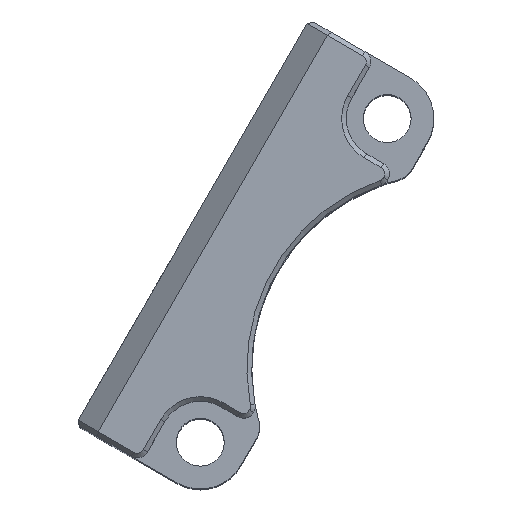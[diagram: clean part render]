
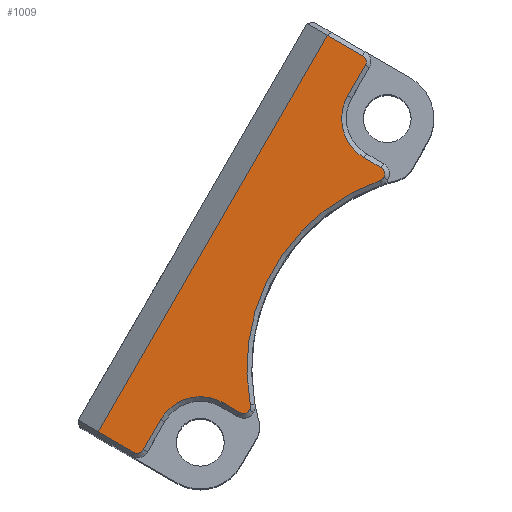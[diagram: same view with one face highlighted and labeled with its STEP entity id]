
A CAD part, top view. The second image highlights one B-rep face of the part: STEP entity #1009.
In plain terms, the highlighted planar face has unit normal (0, 0, 1).
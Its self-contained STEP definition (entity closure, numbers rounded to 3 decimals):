
#38 = CARTESIAN_POINT ( 'NONE',  ( 8., -0.05, 14.3 ) ) ;
#74 = DIRECTION ( 'NONE',  ( 0., 0., -1. ) ) ;
#219 = ORIENTED_EDGE ( 'NONE', *, *, #13095, .T. ) ;
#317 = DIRECTION ( 'NONE',  ( 1., 0., 0. ) ) ;
#460 = CARTESIAN_POINT ( 'NONE',  ( -5.554, -3.065, 14.3 ) ) ;
#581 = AXIS2_PLACEMENT_3D ( 'NONE', #5599, #3529, #8643 ) ;
#811 = ORIENTED_EDGE ( 'NONE', *, *, #2700, .T. ) ;
#863 = CARTESIAN_POINT ( 'NONE',  ( 9.8, 0.25, 14.3 ) ) ;
#964 = LINE ( 'NONE', #9334, #2453 ) ;
#1009 = ADVANCED_FACE ( 'NONE', ( #5456 ), #8495, .T. ) ;
#1052 = DIRECTION ( 'NONE',  ( 0., -1., 0. ) ) ;
#1085 = EDGE_CURVE ( 'NONE', #8949, #12304, #3251, .T. ) ;
#1091 = AXIS2_PLACEMENT_3D ( 'NONE', #1112, #7257, #9670 ) ;
#1103 = VECTOR ( 'NONE', #317, 1000. ) ;
#1112 = CARTESIAN_POINT ( 'NONE',  ( 0., 0., 14.3 ) ) ;
#1547 = CIRCLE ( 'NONE', #8161, 1.95 ) ;
#1606 = CIRCLE ( 'NONE', #11754, 0.3 ) ;
#1618 = AXIS2_PLACEMENT_3D ( 'NONE', #2293, #74, #12658 ) ;
#1825 = EDGE_CURVE ( 'NONE', #11765, #8949, #10469, .T. ) ;
#1978 = AXIS2_PLACEMENT_3D ( 'NONE', #11791, #7438, #2324 ) ;
#2100 = DIRECTION ( 'NONE',  ( 0., 0., 1. ) ) ;
#2217 = AXIS2_PLACEMENT_3D ( 'NONE', #8630, #11666, #7597 ) ;
#2293 = CARTESIAN_POINT ( 'NONE',  ( 0., -9.5, 14.3 ) ) ;
#2324 = DIRECTION ( 'NONE',  ( -1., 0., 0. ) ) ;
#2331 = LINE ( 'NONE', #13049, #7982 ) ;
#2370 = CARTESIAN_POINT ( 'NONE',  ( 9.5, -0.05, 14.3 ) ) ;
#2453 = VECTOR ( 'NONE', #11002, 1000. ) ;
#2659 = VERTEX_POINT ( 'NONE', #12706 ) ;
#2677 = VERTEX_POINT ( 'NONE', #4422 ) ;
#2688 = CARTESIAN_POINT ( 'NONE',  ( -5.75, -2.838, 14.3 ) ) ;
#2700 = EDGE_CURVE ( 'NONE', #4911, #4966, #3752, .T. ) ;
#2820 = CARTESIAN_POINT ( 'NONE',  ( 5.75, -3.138, 14.3 ) ) ;
#2894 = DIRECTION ( 'NONE',  ( 0., 0., -1. ) ) ;
#2955 = EDGE_CURVE ( 'NONE', #4952, #2659, #1547, .T. ) ;
#3160 = CARTESIAN_POINT ( 'NONE',  ( 6.05, -2.838, 14.3 ) ) ;
#3251 = LINE ( 'NONE', #11678, #7718 ) ;
#3285 = LINE ( 'NONE', #38, #10237 ) ;
#3411 = LINE ( 'NONE', #9630, #10292 ) ;
#3438 = CARTESIAN_POINT ( 'NONE',  ( 5.75, -2.838, 14.3 ) ) ;
#3503 = DIRECTION ( 'NONE',  ( -0.653, -0.757, 0. ) ) ;
#3529 = DIRECTION ( 'NONE',  ( 0., 0., 1. ) ) ;
#3533 = EDGE_CURVE ( 'NONE', #8189, #11765, #7973, .T. ) ;
#3581 = DIRECTION ( 'NONE',  ( 0., -1., 0. ) ) ;
#3676 = EDGE_CURVE ( 'NONE', #10697, #4952, #964, .T. ) ;
#3691 = ORIENTED_EDGE ( 'NONE', *, *, #3533, .T. ) ;
#3752 = CIRCLE ( 'NONE', #2217, 0.3 ) ;
#3922 = CARTESIAN_POINT ( 'NONE',  ( 8., -2., 14.3 ) ) ;
#4056 = DIRECTION ( 'NONE',  ( 0., 1., 0. ) ) ;
#4371 = VERTEX_POINT ( 'NONE', #12716 ) ;
#4422 = CARTESIAN_POINT ( 'NONE',  ( -8., -0.05, 14.3 ) ) ;
#4824 = DIRECTION ( 'NONE',  ( -1., 0., 0. ) ) ;
#4911 = VERTEX_POINT ( 'NONE', #9736 ) ;
#4952 = VERTEX_POINT ( 'NONE', #9863 ) ;
#4966 = VERTEX_POINT ( 'NONE', #460 ) ;
#5008 = ORIENTED_EDGE ( 'NONE', *, *, #9885, .T. ) ;
#5034 = ORIENTED_EDGE ( 'NONE', *, *, #8842, .T. ) ;
#5456 = FACE_OUTER_BOUND ( 'NONE', #13668, .T. ) ;
#5574 = LINE ( 'NONE', #9792, #1103 ) ;
#5599 = CARTESIAN_POINT ( 'NONE',  ( 5.75, -2.838, 14.3 ) ) ;
#5663 = DIRECTION ( 'NONE',  ( -1., 0., 0. ) ) ;
#5812 = ORIENTED_EDGE ( 'NONE', *, *, #10204, .T. ) ;
#5846 = ORIENTED_EDGE ( 'NONE', *, *, #12320, .T. ) ;
#5882 = VERTEX_POINT ( 'NONE', #11391 ) ;
#5914 = ORIENTED_EDGE ( 'NONE', *, *, #1085, .T. ) ;
#6094 = CIRCLE ( 'NONE', #581, 0.3 ) ;
#6282 = AXIS2_PLACEMENT_3D ( 'NONE', #12574, #7528, #9599 ) ;
#6476 = DIRECTION ( 'NONE',  ( 0., 0., 1. ) ) ;
#6945 = CARTESIAN_POINT ( 'NONE',  ( -6.05, -2., 14.3 ) ) ;
#7257 = DIRECTION ( 'NONE',  ( 0., 0., 1. ) ) ;
#7390 = ORIENTED_EDGE ( 'NONE', *, *, #7762, .T. ) ;
#7438 = DIRECTION ( 'NONE',  ( 0., 0., 1. ) ) ;
#7479 = VECTOR ( 'NONE', #4056, 1000. ) ;
#7503 = DIRECTION ( 'NONE',  ( 1., 0., 0. ) ) ;
#7528 = DIRECTION ( 'NONE',  ( 0., 0., -1. ) ) ;
#7597 = DIRECTION ( 'NONE',  ( -1., 0., 0. ) ) ;
#7680 = EDGE_CURVE ( 'NONE', #5882, #8976, #11019, .T. ) ;
#7718 = VECTOR ( 'NONE', #5663, 1000. ) ;
#7762 = EDGE_CURVE ( 'NONE', #8976, #2677, #5574, .T. ) ;
#7901 = ORIENTED_EDGE ( 'NONE', *, *, #2955, .T. ) ;
#7973 = CIRCLE ( 'NONE', #9951, 0.3 ) ;
#7982 = VECTOR ( 'NONE', #3581, 1000. ) ;
#8028 = CIRCLE ( 'NONE', #10005, 0.3 ) ;
#8161 = AXIS2_PLACEMENT_3D ( 'NONE', #3922, #2894, #11314 ) ;
#8189 = VERTEX_POINT ( 'NONE', #2370 ) ;
#8495 = PLANE ( 'NONE',  #1091 ) ;
#8630 = CARTESIAN_POINT ( 'NONE',  ( -5.75, -2.838, 14.3 ) ) ;
#8643 = DIRECTION ( 'NONE',  ( -0.653, -0.757, 0. ) ) ;
#8842 = EDGE_CURVE ( 'NONE', #11256, #9347, #6094, .T. ) ;
#8949 = VERTEX_POINT ( 'NONE', #12439 ) ;
#8976 = VERTEX_POINT ( 'NONE', #12569 ) ;
#8989 = ORIENTED_EDGE ( 'NONE', *, *, #11751, .T. ) ;
#9334 = CARTESIAN_POINT ( 'NONE',  ( 6.05, -2.838, 14.3 ) ) ;
#9347 = VERTEX_POINT ( 'NONE', #2820 ) ;
#9599 = DIRECTION ( 'NONE',  ( 0., 1., 0. ) ) ;
#9630 = CARTESIAN_POINT ( 'NONE',  ( -9.8, 2., 14.3 ) ) ;
#9670 = DIRECTION ( 'NONE',  ( 1., 0., 0. ) ) ;
#9672 = CARTESIAN_POINT ( 'NONE',  ( -9.8, 2., 14.3 ) ) ;
#9736 = CARTESIAN_POINT ( 'NONE',  ( -5.75, -3.138, 14.3 ) ) ;
#9792 = CARTESIAN_POINT ( 'NONE',  ( -9.5, -0.05, 14.3 ) ) ;
#9863 = CARTESIAN_POINT ( 'NONE',  ( 6.05, -2., 14.3 ) ) ;
#9885 = EDGE_CURVE ( 'NONE', #12304, #5882, #3411, .T. ) ;
#9932 = CARTESIAN_POINT ( 'NONE',  ( 9.8, 0.25, 14.3 ) ) ;
#9951 = AXIS2_PLACEMENT_3D ( 'NONE', #11566, #2100, #1052 ) ;
#10005 = AXIS2_PLACEMENT_3D ( 'NONE', #2688, #10145, #4824 ) ;
#10145 = DIRECTION ( 'NONE',  ( 0., 0., 1. ) ) ;
#10204 = EDGE_CURVE ( 'NONE', #2677, #10921, #12033, .T. ) ;
#10237 = VECTOR ( 'NONE', #7503, 1000. ) ;
#10292 = VECTOR ( 'NONE', #12738, 1000. ) ;
#10469 = LINE ( 'NONE', #863, #7479 ) ;
#10697 = VERTEX_POINT ( 'NONE', #3160 ) ;
#10748 = ORIENTED_EDGE ( 'NONE', *, *, #1825, .T. ) ;
#10873 = ORIENTED_EDGE ( 'NONE', *, *, #7680, .T. ) ;
#10921 = VERTEX_POINT ( 'NONE', #6945 ) ;
#11002 = DIRECTION ( 'NONE',  ( 0., 1., 0. ) ) ;
#11019 = CIRCLE ( 'NONE', #1978, 0.3 ) ;
#11095 = CIRCLE ( 'NONE', #1618, 8.5 ) ;
#11256 = VERTEX_POINT ( 'NONE', #12112 ) ;
#11314 = DIRECTION ( 'NONE',  ( -1., 0., 0. ) ) ;
#11391 = CARTESIAN_POINT ( 'NONE',  ( -9.8, 0.25, 14.3 ) ) ;
#11519 = ORIENTED_EDGE ( 'NONE', *, *, #11714, .T. ) ;
#11566 = CARTESIAN_POINT ( 'NONE',  ( 9.5, 0.25, 14.3 ) ) ;
#11666 = DIRECTION ( 'NONE',  ( 0., 0., 1. ) ) ;
#11678 = CARTESIAN_POINT ( 'NONE',  ( 9.8, 2., 14.3 ) ) ;
#11714 = EDGE_CURVE ( 'NONE', #10921, #4371, #2331, .T. ) ;
#11751 = EDGE_CURVE ( 'NONE', #9347, #10697, #1606, .T. ) ;
#11754 = AXIS2_PLACEMENT_3D ( 'NONE', #3438, #6476, #3503 ) ;
#11765 = VERTEX_POINT ( 'NONE', #9932 ) ;
#11791 = CARTESIAN_POINT ( 'NONE',  ( -9.5, 0.25, 14.3 ) ) ;
#12033 = CIRCLE ( 'NONE', #6282, 1.95 ) ;
#12112 = CARTESIAN_POINT ( 'NONE',  ( 5.554, -3.065, 14.3 ) ) ;
#12304 = VERTEX_POINT ( 'NONE', #9672 ) ;
#12320 = EDGE_CURVE ( 'NONE', #4966, #11256, #11095, .T. ) ;
#12439 = CARTESIAN_POINT ( 'NONE',  ( 9.8, 2., 14.3 ) ) ;
#12569 = CARTESIAN_POINT ( 'NONE',  ( -9.5, -0.05, 14.3 ) ) ;
#12574 = CARTESIAN_POINT ( 'NONE',  ( -8., -2., 14.3 ) ) ;
#12658 = DIRECTION ( 'NONE',  ( -0.653, 0.757, 0. ) ) ;
#12706 = CARTESIAN_POINT ( 'NONE',  ( 8., -0.05, 14.3 ) ) ;
#12716 = CARTESIAN_POINT ( 'NONE',  ( -6.05, -2.838, 14.3 ) ) ;
#12738 = DIRECTION ( 'NONE',  ( 0., -1., 0. ) ) ;
#12911 = EDGE_CURVE ( 'NONE', #4371, #4911, #8028, .T. ) ;
#12988 = ORIENTED_EDGE ( 'NONE', *, *, #3676, .T. ) ;
#13049 = CARTESIAN_POINT ( 'NONE',  ( -6.05, -2., 14.3 ) ) ;
#13095 = EDGE_CURVE ( 'NONE', #2659, #8189, #3285, .T. ) ;
#13160 = ORIENTED_EDGE ( 'NONE', *, *, #12911, .T. ) ;
#13668 = EDGE_LOOP ( 'NONE', ( #5914, #5008, #10873, #7390, #5812, #11519, #13160, #811, #5846, #5034, #8989, #12988, #7901, #219, #3691, #10748 ) ) ;
